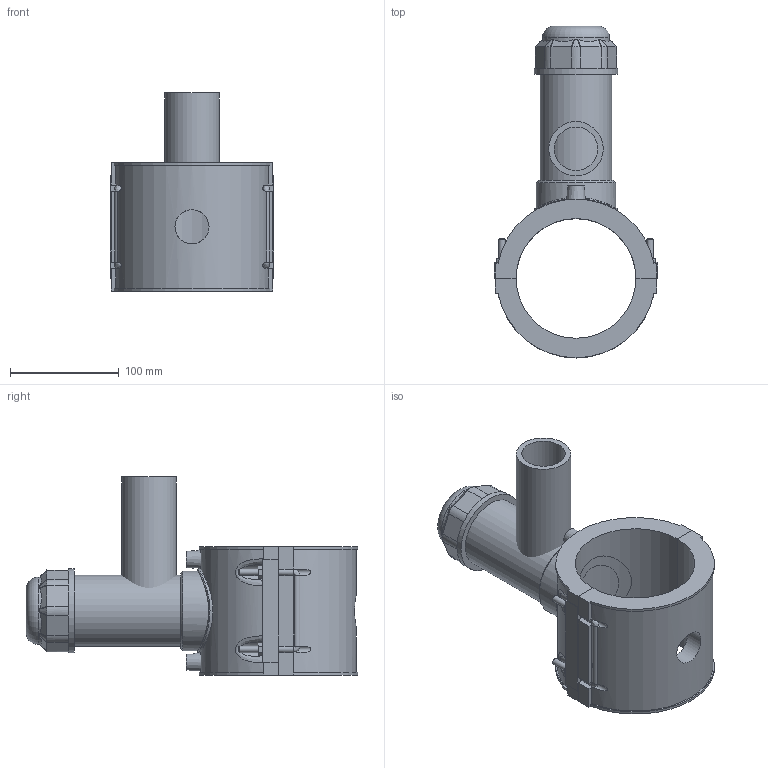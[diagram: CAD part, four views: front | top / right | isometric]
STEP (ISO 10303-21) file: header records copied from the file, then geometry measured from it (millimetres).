
FILE_DESCRIPTION(/* description */ (''),/* implementation_level */ '2;1');
FILE_NAME(/* name */ 'C:\Dropbox\KIMPROJECTS-Inventor 2019\99-16-3568-Processing\ElectroFusion Fittings\4963P4\stp\4963P4110050.stp',/* time_stamp */ '2022-03-17T11:28:04+02:00',/* author */ ('KIM'),/* organization */ (''),/* preprocessor_version */ 'ST-DEVELOPER v17.2',/* originating_system */ 'Autodesk Inventor 2019',/* authorisation */ '');
FILE_SCHEMA (('AUTOMOTIVE_DESIGN { 1 0 10303 214 3 1 1 }'));
Length unit declared in the file: millimetre
Products named in the file (1): 4963P4110050
Bounding box: 150 x 304.93 x 182 mm (x, y, z)
Volume: 1232059.8 mm3; surface area: 235414.5 mm2
Topology: 3 solids, 3 shells, 218 faces, 563 edges, 364 vertices
Faces by surface type: plane 125, cylinder 52, bspline 25, cone 15, torus 1
Full cylindrical faces by diameter (mm): 4 x2, 6 x8, 10 x2, 31.36 x1, 40 x1, 50 x1, 53.9 x1, 61.6 x1, 65.45 x1, 73.15 x1, 77 x2
Entity records: 8231 total; most frequent: CARTESIAN_POINT 2967, ORIENTED_EDGE 1126, DIRECTION 1011, EDGE_CURVE 563, VERTEX_POINT 364, AXIS2_PLACEMENT_3D 347, LINE 317, VECTOR 317
